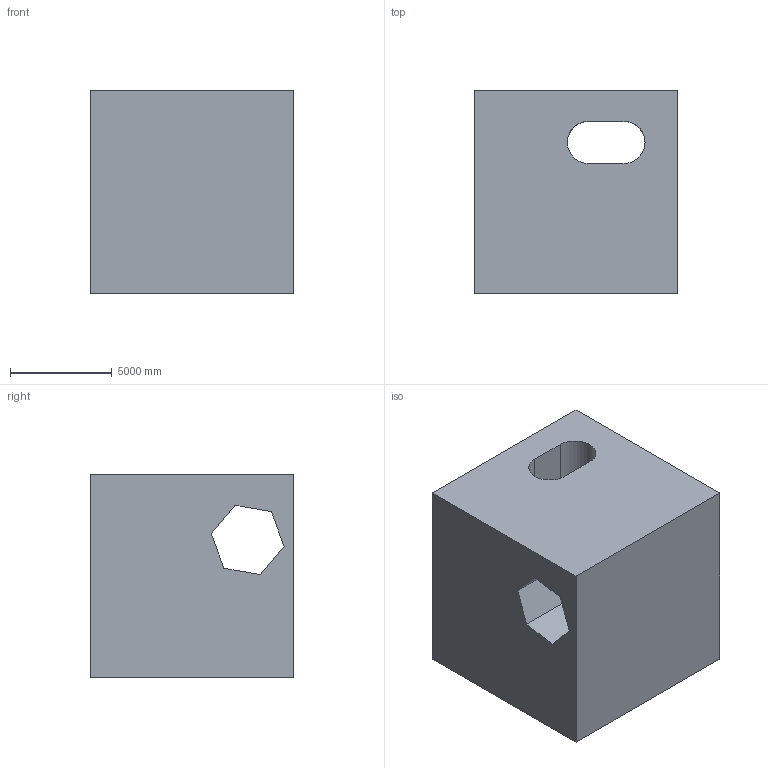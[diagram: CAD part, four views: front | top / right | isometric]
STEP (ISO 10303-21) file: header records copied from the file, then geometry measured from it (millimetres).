
FILE_DESCRIPTION (( 'STEP AP203' ), '1' );
FILE_NAME ('12.STEP', '2022-08-30T14:01:14', ( 'user' ), ( '' ), 'SwSTEP 2.0', 'SolidWorks 2021', '' );
FILE_SCHEMA (( 'CONFIG_CONTROL_DESIGN' ));
Length unit declared in the file: centimetre
Products named in the file (1): 12
Bounding box: 10000 x 10000 x 10000 mm (x, y, z)
Volume: 844253127332.1 mm3; surface area: 777998468.3 mm2
Topology: 1 solids, 1 shells, 17 faces, 45 edges, 30 vertices
Faces by surface type: plane 14, cylinder 3
Entity records: 610 total; most frequent: CARTESIAN_POINT 93, ORIENTED_EDGE 90, DIRECTION 87, EDGE_CURVE 45, LINE 39, VECTOR 39, VERTEX_POINT 30, AXIS2_PLACEMENT_3D 24
